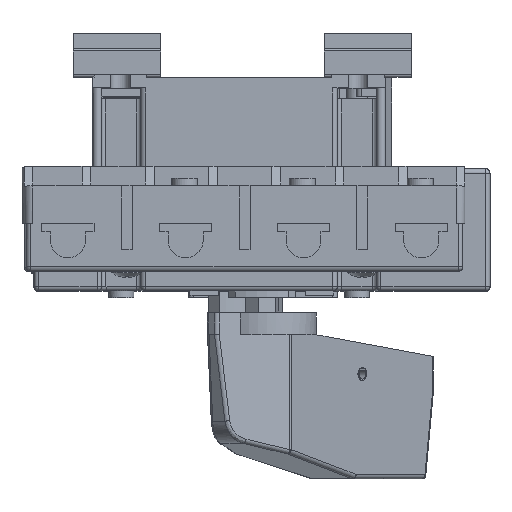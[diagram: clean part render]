
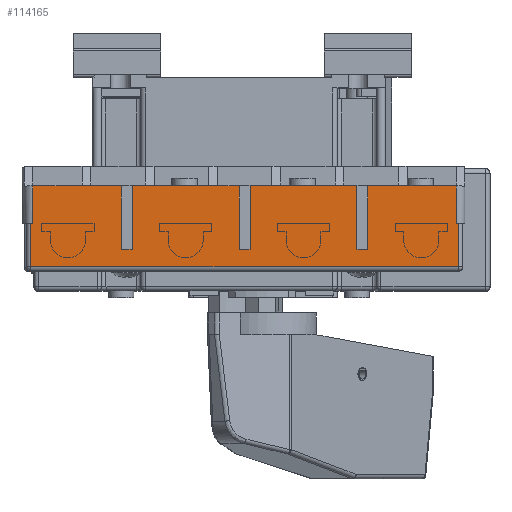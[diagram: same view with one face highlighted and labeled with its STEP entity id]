
A CAD part, top view. The second image highlights one B-rep face of the part: STEP entity #114165.
In plain terms, the highlighted planar face has unit normal (0, 0, 1).
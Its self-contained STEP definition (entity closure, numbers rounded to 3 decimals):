
#13337=DIRECTION('',(1.,0.,0.));
#13338=VECTOR('',#13337,0.5);
#13339=CARTESIAN_POINT('',(-52.997,15.5,55.5));
#13340=LINE('',#13339,#13338);
#13346=DIRECTION('',(0.,1.,0.));
#13347=VECTOR('',#13346,14.5);
#13348=CARTESIAN_POINT('',(-29.747,9.5,55.5));
#13349=LINE('',#13348,#13347);
#13350=DIRECTION('',(0.,-1.,0.));
#13351=VECTOR('',#13350,14.5);
#13352=CARTESIAN_POINT('',(-5.247,24.,55.5));
#13353=LINE('',#13352,#13351);
#13354=DIRECTION('',(0.,1.,0.));
#13355=VECTOR('',#13354,14.5);
#13356=CARTESIAN_POINT('',(-2.747,9.5,55.5));
#13357=LINE('',#13356,#13355);
#13358=DIRECTION('',(0.,-1.,0.));
#13359=VECTOR('',#13358,14.5);
#13360=CARTESIAN_POINT('',(21.753,24.,55.5));
#13361=LINE('',#13360,#13359);
#13362=DIRECTION('',(0.,1.,0.));
#13363=VECTOR('',#13362,14.5);
#13364=CARTESIAN_POINT('',(24.253,9.5,55.5));
#13365=LINE('',#13364,#13363);
#13366=DIRECTION('',(0.,-1.,0.));
#13367=VECTOR('',#13366,8.5);
#13368=CARTESIAN_POINT('',(44.503,24.,55.5));
#13369=LINE('',#13368,#13367);
#13370=DIRECTION('',(0.,-1.,0.));
#13371=VECTOR('',#13370,10.);
#13372=CARTESIAN_POINT('',(45.003,15.5,55.5));
#13373=LINE('',#13372,#13371);
#13374=DIRECTION('',(-1.,0.,0.));
#13375=VECTOR('',#13374,98.);
#13376=CARTESIAN_POINT('',(45.003,5.5,55.5));
#13377=LINE('',#13376,#13375);
#13378=DIRECTION('',(0.,-1.,0.));
#13379=VECTOR('',#13378,10.);
#13380=CARTESIAN_POINT('',(-52.997,15.5,55.5));
#13381=LINE('',#13380,#13379);
#13382=DIRECTION('',(0.,1.,0.));
#13383=VECTOR('',#13382,8.5);
#13384=CARTESIAN_POINT('',(-52.497,15.5,55.5));
#13385=LINE('',#13384,#13383);
#13386=DIRECTION('',(0.,-1.,0.));
#13387=VECTOR('',#13386,14.5);
#13388=CARTESIAN_POINT('',(-32.247,24.,55.5));
#13389=LINE('',#13388,#13387);
#13394=DIRECTION('',(1.,0.,0.));
#13395=VECTOR('',#13394,2.5);
#13396=CARTESIAN_POINT('',(-32.247,9.5,55.5));
#13397=LINE('',#13396,#13395);
#13580=DIRECTION('',(-1.,0.,0.));
#13581=VECTOR('',#13580,20.25);
#13582=CARTESIAN_POINT('',(44.503,24.,55.5));
#13583=LINE('',#13582,#13581);
#13592=DIRECTION('',(1.,0.,0.));
#13593=VECTOR('',#13592,24.5);
#13594=CARTESIAN_POINT('',(-2.747,24.,55.5));
#13595=LINE('',#13594,#13593);
#13604=DIRECTION('',(1.,0.,0.));
#13605=VECTOR('',#13604,24.5);
#13606=CARTESIAN_POINT('',(-29.747,24.,55.5));
#13607=LINE('',#13606,#13605);
#13616=DIRECTION('',(1.,0.,0.));
#13617=VECTOR('',#13616,20.25);
#13618=CARTESIAN_POINT('',(-52.497,24.,55.5));
#13619=LINE('',#13618,#13617);
#13890=DIRECTION('',(1.,0.,0.));
#13891=VECTOR('',#13890,0.5);
#13892=CARTESIAN_POINT('',(44.503,15.5,55.5));
#13893=LINE('',#13892,#13891);
#13928=DIRECTION('',(1.,0.,0.));
#13929=VECTOR('',#13928,2.5);
#13930=CARTESIAN_POINT('',(21.753,9.5,55.5));
#13931=LINE('',#13930,#13929);
#13956=DIRECTION('',(1.,0.,0.));
#13957=VECTOR('',#13956,2.5);
#13958=CARTESIAN_POINT('',(-5.247,9.5,55.5));
#13959=LINE('',#13958,#13957);
#77703=CARTESIAN_POINT('',(-2.747,24.,55.5));
#77704=CARTESIAN_POINT('',(21.753,24.,55.5));
#77705=VERTEX_POINT('',#77703);
#77706=VERTEX_POINT('',#77704);
#77712=CARTESIAN_POINT('',(-5.247,24.,55.5));
#77714=VERTEX_POINT('',#77712);
#77716=CARTESIAN_POINT('',(-29.747,24.,55.5));
#77718=VERTEX_POINT('',#77716);
#77720=CARTESIAN_POINT('',(-32.247,24.,55.5));
#77722=VERTEX_POINT('',#77720);
#77724=CARTESIAN_POINT('',(24.253,24.,55.5));
#77726=VERTEX_POINT('',#77724);
#78038=CARTESIAN_POINT('',(-52.497,24.,55.5));
#78040=VERTEX_POINT('',#78038);
#78049=CARTESIAN_POINT('',(44.503,24.,55.5));
#78051=VERTEX_POINT('',#78049);
#79535=CARTESIAN_POINT('',(45.003,15.5,55.5));
#79536=CARTESIAN_POINT('',(45.003,5.5,55.5));
#79537=VERTEX_POINT('',#79535);
#79538=VERTEX_POINT('',#79536);
#79559=CARTESIAN_POINT('',(-52.997,5.5,55.5));
#79560=VERTEX_POINT('',#79559);
#79561=CARTESIAN_POINT('',(-52.997,15.5,55.5));
#79562=VERTEX_POINT('',#79561);
#79659=CARTESIAN_POINT('',(-32.247,9.5,55.5));
#79660=CARTESIAN_POINT('',(-29.747,9.5,55.5));
#79661=VERTEX_POINT('',#79659);
#79662=VERTEX_POINT('',#79660);
#79663=CARTESIAN_POINT('',(-5.247,9.5,55.5));
#79664=CARTESIAN_POINT('',(-2.747,9.5,55.5));
#79665=VERTEX_POINT('',#79663);
#79666=VERTEX_POINT('',#79664);
#79667=CARTESIAN_POINT('',(21.753,9.5,55.5));
#79668=CARTESIAN_POINT('',(24.253,9.5,55.5));
#79669=VERTEX_POINT('',#79667);
#79670=VERTEX_POINT('',#79668);
#79805=CARTESIAN_POINT('',(-52.497,15.5,55.5));
#79806=VERTEX_POINT('',#79805);
#79809=CARTESIAN_POINT('',(44.503,15.5,55.5));
#79810=VERTEX_POINT('',#79809);
#114120=CARTESIAN_POINT('',(-2.747,9.5,55.5));
#114121=DIRECTION('',(0.,0.,-1.));
#114122=DIRECTION('',(1.,0.,0.));
#114123=AXIS2_PLACEMENT_3D('',#114120,#114121,#114122);
#114124=PLANE('',#114123);
#114126=ORIENTED_EDGE('',*,*,#114125,.T.);
#114128=ORIENTED_EDGE('',*,*,#114127,.T.);
#114130=ORIENTED_EDGE('',*,*,#114129,.T.);
#114132=ORIENTED_EDGE('',*,*,#114131,.T.);
#114134=ORIENTED_EDGE('',*,*,#114133,.T.);
#114136=ORIENTED_EDGE('',*,*,#114135,.T.);
#114138=ORIENTED_EDGE('',*,*,#114137,.T.);
#114140=ORIENTED_EDGE('',*,*,#114139,.T.);
#114142=ORIENTED_EDGE('',*,*,#114141,.T.);
#114144=ORIENTED_EDGE('',*,*,#114143,.F.);
#114146=ORIENTED_EDGE('',*,*,#114145,.T.);
#114148=ORIENTED_EDGE('',*,*,#114147,.T.);
#114150=ORIENTED_EDGE('',*,*,#114149,.T.);
#114152=ORIENTED_EDGE('',*,*,#114151,.T.);
#114154=ORIENTED_EDGE('',*,*,#114153,.F.);
#114155=ORIENTED_EDGE('',*,*,#114113,.T.);
#114156=ORIENTED_EDGE('',*,*,#114102,.T.);
#114158=ORIENTED_EDGE('',*,*,#114157,.T.);
#114160=ORIENTED_EDGE('',*,*,#114159,.T.);
#114162=ORIENTED_EDGE('',*,*,#114161,.T.);
#114163=EDGE_LOOP('',(#114126,#114128,#114130,#114132,#114134,#114136,#114138,
#114140,#114142,#114144,#114146,#114148,#114150,#114152,#114154,#114155,#114156,
#114158,#114160,#114162));
#114164=FACE_OUTER_BOUND('',#114163,.F.);
#114165=ADVANCED_FACE('',(#114164),#114124,.F.);
#114102=EDGE_CURVE('',#79806,#78040,#13385,.T.);
#114113=EDGE_CURVE('',#79562,#79806,#13340,.T.);
#114125=EDGE_CURVE('',#79662,#77718,#13349,.T.);
#114127=EDGE_CURVE('',#77718,#77714,#13607,.T.);
#114129=EDGE_CURVE('',#77714,#79665,#13353,.T.);
#114131=EDGE_CURVE('',#79665,#79666,#13959,.T.);
#114133=EDGE_CURVE('',#79666,#77705,#13357,.T.);
#114135=EDGE_CURVE('',#77705,#77706,#13595,.T.);
#114137=EDGE_CURVE('',#77706,#79669,#13361,.T.);
#114139=EDGE_CURVE('',#79669,#79670,#13931,.T.);
#114141=EDGE_CURVE('',#79670,#77726,#13365,.T.);
#114143=EDGE_CURVE('',#78051,#77726,#13583,.T.);
#114145=EDGE_CURVE('',#78051,#79810,#13369,.T.);
#114147=EDGE_CURVE('',#79810,#79537,#13893,.T.);
#114149=EDGE_CURVE('',#79537,#79538,#13373,.T.);
#114151=EDGE_CURVE('',#79538,#79560,#13377,.T.);
#114153=EDGE_CURVE('',#79562,#79560,#13381,.T.);
#114157=EDGE_CURVE('',#78040,#77722,#13619,.T.);
#114159=EDGE_CURVE('',#77722,#79661,#13389,.T.);
#114161=EDGE_CURVE('',#79661,#79662,#13397,.T.);
